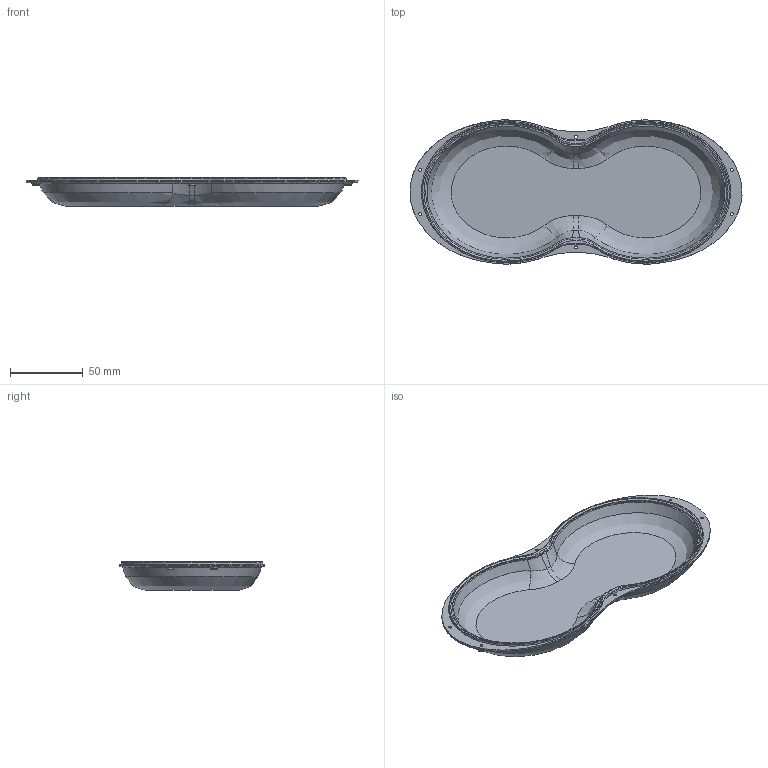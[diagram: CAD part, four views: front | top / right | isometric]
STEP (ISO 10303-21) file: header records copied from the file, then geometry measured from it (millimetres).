
FILE_DESCRIPTION(('STEP AP203'),'2;1');
FILE_NAME('MODULO_PLUSME_COPPA.stp','2012-07-31T17:24:06',(''),(''),'2008.1.107','THINKDESIGN','');
FILE_SCHEMA(('CONFIG_CONTROL_DESIGN'));
Length unit declared in the file: millimetre
Bounding box: 228.68 x 99.42 x 19.5 mm (x, y, z)
Volume: 71755.4 mm3; surface area: 48695.6 mm2
Topology: 1 solids, 1 shells, 155 faces, 394 edges, 244 vertices
Faces by surface type: bspline 120, cylinder 18, plane 17
Full cylindrical faces by diameter (mm): 2 x6
Entity records: 16762 total; most frequent: CARTESIAN_POINT 13630, ORIENTED_EDGE 788, EDGE_CURVE 394, DIRECTION 354, VERTEX_POINT 244, B_SPLINE_CURVE_WITH_KNOTS 206, EDGE_LOOP 170, FACE_OUTER_BOUND 155
